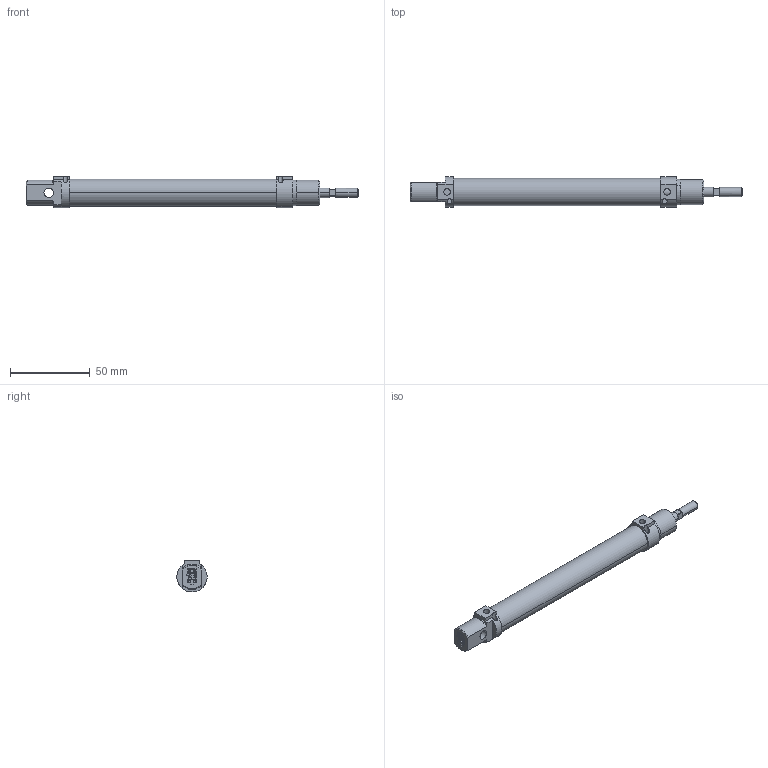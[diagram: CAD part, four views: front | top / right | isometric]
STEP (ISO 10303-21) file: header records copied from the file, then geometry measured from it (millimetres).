
FILE_DESCRIPTION(('CATIA V5 STEP Exchange'),'2;1');
FILE_NAME('D:\stp file for catalog\PSN\12\PSN-12-06-100.stp','2018-04-25T08:17:21+00:00',('none'),('none'),'CATIA Version 5-6 Release 2016','CATIA V5 STEP AP203','none');
FILE_SCHEMA(('CONFIG_CONTROL_DESIGN'));
Length unit declared in the file: millimetre
Products named in the file (1): PSN-12-06-100-00
Assembly tree (2 placements, depth 2):
  PSN-12-06-100-00
    #57
    #4991
Bounding box: 208.25 x 18.98 x 20 mm (x, y, z)
Volume: 32473.2 mm3; surface area: 21119.1 mm2
Topology: 2 solids, 3 shells, 200 faces, 506 edges, 334 vertices
Faces by surface type: plane 136, cylinder 58, cone 6
Entity records: 5681 total; most frequent: CARTESIAN_POINT 1087, ORIENTED_EDGE 1012, DIRECTION 753, EDGE_CURVE 506, VECTOR 356, LINE 356, VERTEX_POINT 334, AXIS2_PLACEMENT_3D 267
